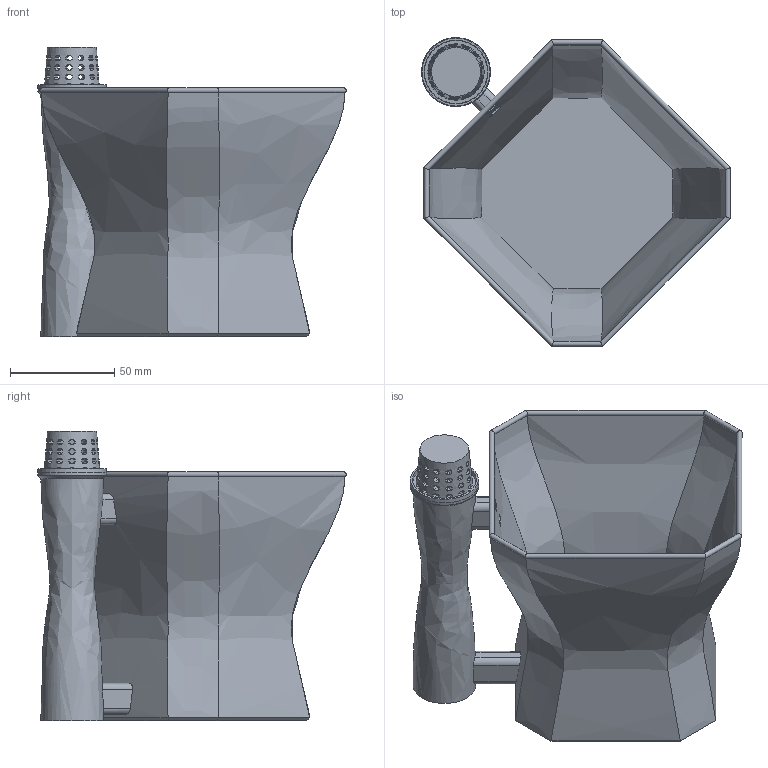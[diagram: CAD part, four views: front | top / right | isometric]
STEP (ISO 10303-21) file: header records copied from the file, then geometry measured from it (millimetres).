
FILE_DESCRIPTION(/* description */ (''),/* implementation_level */ '2;1');
FILE_NAME(/* name */ 'D:/Documents/3D/Garden/vase ladder/Cutomizers/Violet.step',/* time_stamp */ '2021-04-07T19:02:16-04:00',/* author */ (''),/* organization */ (''),/* preprocessor_version */ 'ST-DEVELOPER v18.1',/* originating_system */ 'Autodesk Translation Framework v10.6.0.1341',/* authorisation */ '');
FILE_SCHEMA (('AUTOMOTIVE_DESIGN { 1 0 10303 214 3 1 1 }'));
Length unit declared in the file: millimetre
Products named in the file (1): Tower_Vase_A
Bounding box: 148.18 x 148.18 x 139 mm (x, y, z)
Volume: 90149.4 mm3; surface area: 129794.9 mm2
Topology: 2 solids, 2 shells, 519 faces, 1590 edges, 1063 vertices
Faces by surface type: plane 441, bspline 40, cylinder 33, cone 5
Full cylindrical faces by diameter (mm): 33 x1
Entity records: 22955 total; most frequent: CARTESIAN_POINT 8378, ORIENTED_EDGE 3180, DIRECTION 2993, EDGE_CURVE 1590, AXIS2_PLACEMENT_3D 1150, VERTEX_POINT 1063, LINE 693, VECTOR 693
